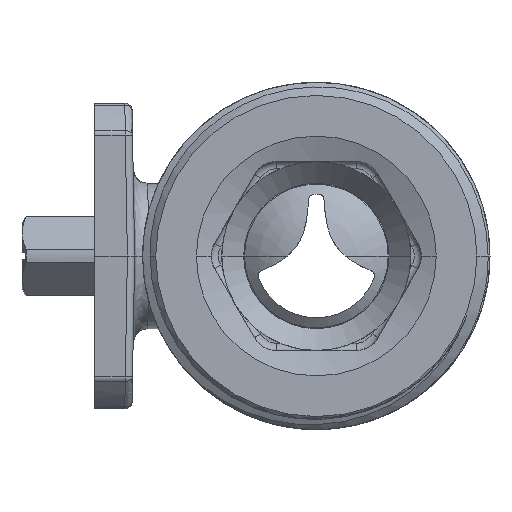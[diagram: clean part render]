
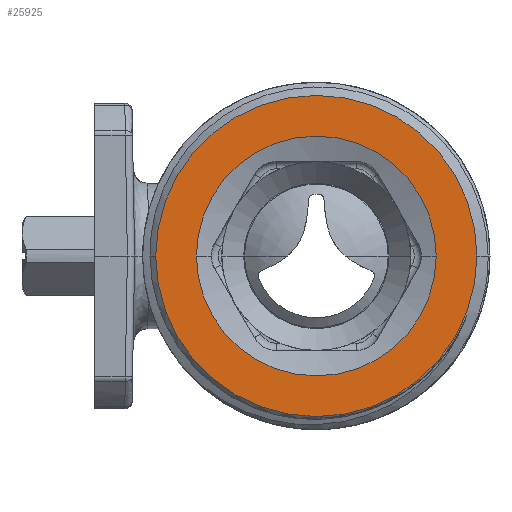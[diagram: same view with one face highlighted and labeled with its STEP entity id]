
A CAD part, left-side view. The second image highlights one B-rep face of the part: STEP entity #25925.
In plain terms, the highlighted planar face has unit normal (-1, 0, 0).
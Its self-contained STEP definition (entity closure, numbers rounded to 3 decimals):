
#2826=CARTESIAN_POINT('',(-45.,0.,0.));
#2827=DIRECTION('',(-1.,0.,0.));
#2828=DIRECTION('',(0.,-1.,0.));
#2829=AXIS2_PLACEMENT_3D('',#2826,#2827,#2828);
#2831=CARTESIAN_POINT('',(-45.,0.,0.));
#2832=DIRECTION('',(1.,0.,0.));
#2833=DIRECTION('',(0.,-1.,0.));
#2834=AXIS2_PLACEMENT_3D('',#2831,#2832,#2833);
#2836=CARTESIAN_POINT('',(-45.,0.,0.));
#2837=DIRECTION('',(1.,0.,0.));
#2838=DIRECTION('',(0.,-1.,0.));
#2839=AXIS2_PLACEMENT_3D('',#2836,#2837,#2838);
#2849=CARTESIAN_POINT('',(-45.,0.,0.));
#2850=DIRECTION('',(-1.,0.,0.));
#2851=DIRECTION('',(0.,-1.,0.));
#2852=AXIS2_PLACEMENT_3D('',#2849,#2850,#2851);
#20660=CARTESIAN_POINT('',(-45.,-16.5,0.));
#20662=VERTEX_POINT('',#20660);
#20664=CARTESIAN_POINT('',(-45.,16.5,0.));
#20666=VERTEX_POINT('',#20664);
#20668=CARTESIAN_POINT('',(-45.,-22.1,0.));
#20669=CARTESIAN_POINT('',(-45.,22.1,0.));
#20670=VERTEX_POINT('',#20668);
#20671=VERTEX_POINT('',#20669);
#25910=CARTESIAN_POINT('',(-45.,0.,0.));
#25911=DIRECTION('',(1.,0.,0.));
#25912=DIRECTION('',(0.,-1.,0.));
#25913=AXIS2_PLACEMENT_3D('',#25910,#25911,#25912);
#25914=PLANE('',#25913);
#25915=ORIENTED_EDGE('',*,*,#25904,.F.);
#25916=ORIENTED_EDGE('',*,*,#24380,.T.);
#25917=EDGE_LOOP('',(#25915,#25916));
#25918=FACE_OUTER_BOUND('',#25917,.F.);
#25920=ORIENTED_EDGE('',*,*,#25919,.F.);
#25922=ORIENTED_EDGE('',*,*,#25921,.T.);
#25923=EDGE_LOOP('',(#25920,#25922));
#25924=FACE_BOUND('',#25923,.F.);
#2830=CIRCLE('',#2829,22.1);
#2835=CIRCLE('',#2834,22.1);
#2840=CIRCLE('',#2839,16.5);
#2853=CIRCLE('',#2852,16.5);
#24380=EDGE_CURVE('',#20670,#20671,#2835,.T.);
#25904=EDGE_CURVE('',#20670,#20671,#2830,.T.);
#25919=EDGE_CURVE('',#20662,#20666,#2840,.T.);
#25921=EDGE_CURVE('',#20662,#20666,#2853,.T.);
#25925=ADVANCED_FACE('',(#25918,#25924),#25914,.F.);
